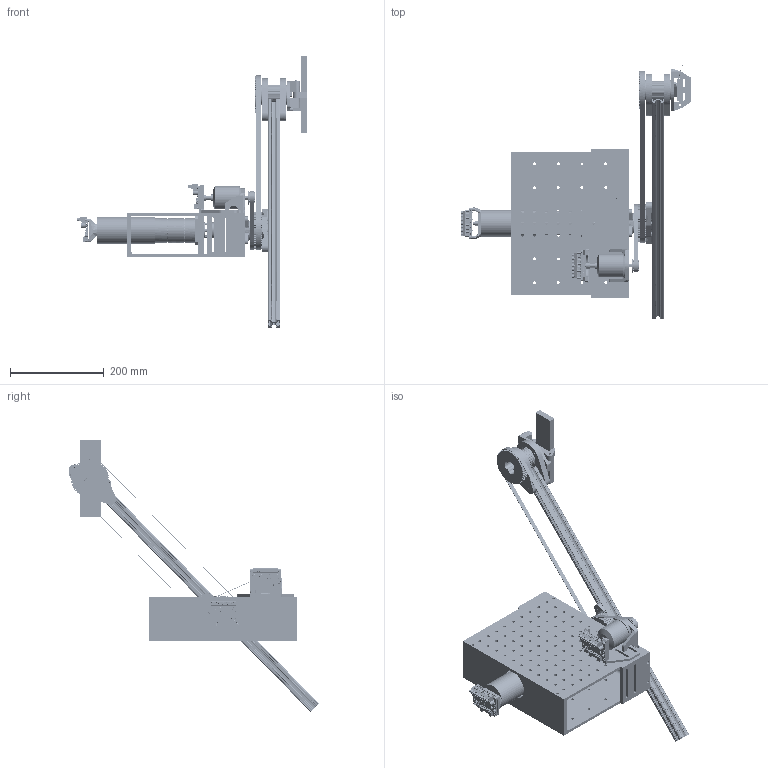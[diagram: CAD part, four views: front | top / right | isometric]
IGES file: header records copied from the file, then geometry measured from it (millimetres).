
Global section: file name: MainMechansim v23; native system: unknown; preprocessor: unknown; author: unknown; organization: unknown; date: 20250726.165921; units: inch
Bounding box: 493.5 x 542.92 x 581.1 mm (x, y, z)
Volume: 3120206.2 mm3; surface area: 1059956.9 mm2
Topology: 1175 solids, 1178 shells, 30706 faces, 80789 edges, 52852 vertices
Faces by surface type: bspline 30706
